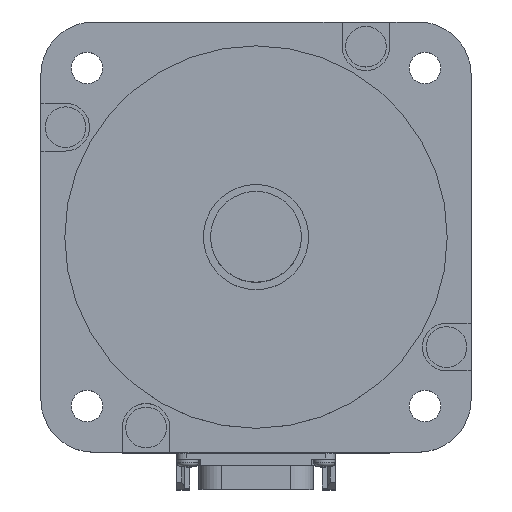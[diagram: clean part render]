
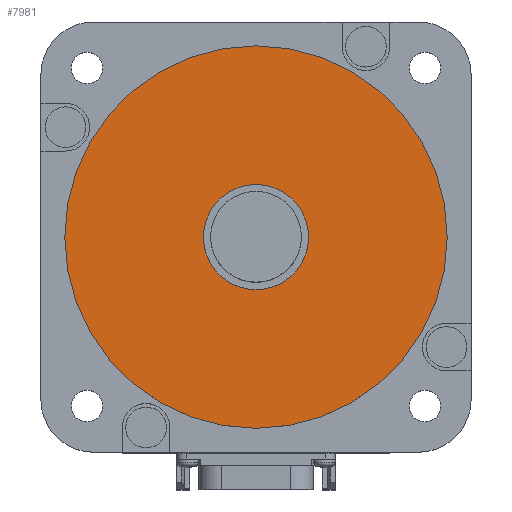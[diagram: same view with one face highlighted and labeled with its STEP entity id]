
A CAD part, top view. The second image highlights one B-rep face of the part: STEP entity #7981.
In plain terms, the highlighted planar face has unit normal (0, 0, 1).
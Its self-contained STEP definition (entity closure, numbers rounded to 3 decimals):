
#1709=CARTESIAN_POINT('',(0.,0.,3.));
#1710=DIRECTION('',(0.,0.,-1.));
#1711=DIRECTION('',(1.,0.,0.));
#1712=AXIS2_PLACEMENT_3D('',#1709,#1710,#1711);
#1714=CARTESIAN_POINT('',(0.,0.,3.));
#1715=DIRECTION('',(0.,0.,-1.));
#1716=DIRECTION('',(-1.,0.,0.));
#1717=AXIS2_PLACEMENT_3D('',#1714,#1715,#1716);
#1719=CARTESIAN_POINT('',(0.,0.,3.));
#1720=DIRECTION('',(0.,0.,1.));
#1721=DIRECTION('',(1.,0.,0.));
#1722=AXIS2_PLACEMENT_3D('',#1719,#1720,#1721);
#1724=CARTESIAN_POINT('',(0.,0.,3.));
#1725=DIRECTION('',(0.,0.,1.));
#1726=DIRECTION('',(-1.,0.,0.));
#1727=AXIS2_PLACEMENT_3D('',#1724,#1725,#1726);
#4524=CARTESIAN_POINT('',(40.,0.,3.));
#4525=VERTEX_POINT('',#4524);
#4526=CARTESIAN_POINT('',(-40.,0.,3.));
#4527=VERTEX_POINT('',#4526);
#5588=CARTESIAN_POINT('',(11.,0.,3.));
#5589=CARTESIAN_POINT('',(-11.,0.,3.));
#5590=VERTEX_POINT('',#5588);
#5591=VERTEX_POINT('',#5589);
#7965=CARTESIAN_POINT('',(0.,0.,3.));
#7966=DIRECTION('',(0.,0.,1.));
#7967=DIRECTION('',(1.,0.,0.));
#7968=AXIS2_PLACEMENT_3D('',#7965,#7966,#7967);
#7969=PLANE('',#7968);
#7970=ORIENTED_EDGE('',*,*,#7955,.T.);
#7972=ORIENTED_EDGE('',*,*,#7971,.T.);
#7973=EDGE_LOOP('',(#7970,#7972));
#7974=FACE_OUTER_BOUND('',#7973,.F.);
#7976=ORIENTED_EDGE('',*,*,#7975,.T.);
#7978=ORIENTED_EDGE('',*,*,#7977,.T.);
#7979=EDGE_LOOP('',(#7976,#7978));
#7980=FACE_BOUND('',#7979,.F.);
#7981=ADVANCED_FACE('',(#7974,#7980),#7969,.T.);
#1713=CIRCLE('',#1712,40.);
#1718=CIRCLE('',#1717,40.);
#1723=CIRCLE('',#1722,11.);
#1728=CIRCLE('',#1727,11.);
#7955=EDGE_CURVE('',#4525,#4527,#1713,.T.);
#7971=EDGE_CURVE('',#4527,#4525,#1718,.T.);
#7975=EDGE_CURVE('',#5590,#5591,#1723,.T.);
#7977=EDGE_CURVE('',#5591,#5590,#1728,.T.);
